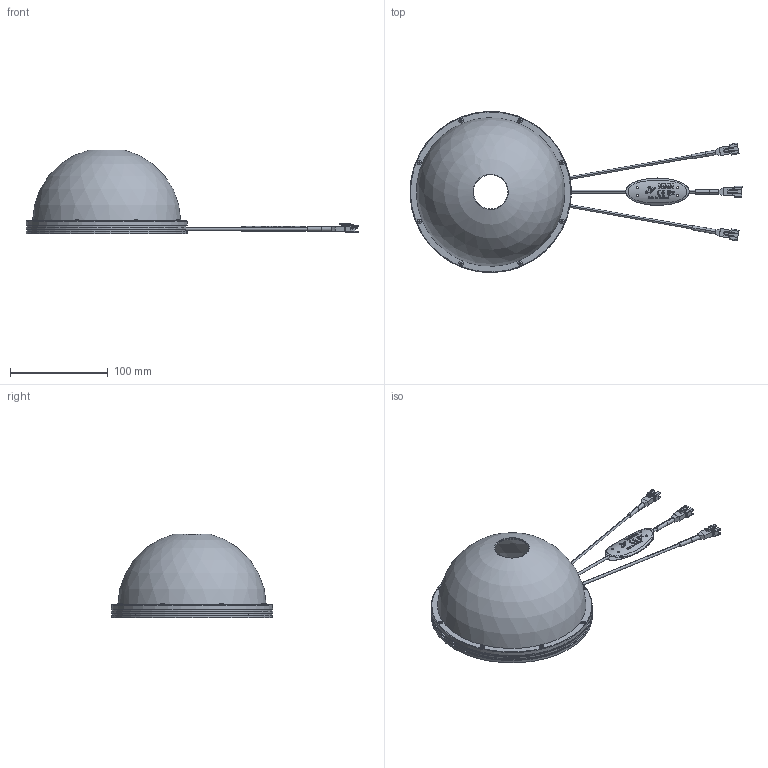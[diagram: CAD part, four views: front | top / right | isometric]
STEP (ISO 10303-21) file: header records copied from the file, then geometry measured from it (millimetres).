
FILE_DESCRIPTION( ('This file contains a STEP AP42 implementation' ,'as created by ZW3D STEP Interface translator.') ,'2;1' );
FILE_NAME( 'VDO-165RGB_DRAWING_3D.stp' ,'25 911.145820', (''), ('ZWCAD Software Co.'), 'Version 1.0', 'ZW3D to STEP translator', '' );
FILE_SCHEMA(('AUTOMOTIVE_DESIGN { 1 0 10303 214 1 1 1 1 }'));
Length unit declared in the file: millimetre
Products named in the file (1): 0
Bounding box: 339.75 x 165 x 85.84 mm (x, y, z)
Volume: 154423.4 mm3; surface area: 126628.1 mm2
Topology: 5 solids, 21 shells, 945 faces, 2700 edges, 1875 vertices
Faces by surface type: plane 552, cylinder 323, cone 26, sphere 18, bspline 14, torus 12
Full cylindrical faces by diameter (mm): 1.6 x32, 2 x8, 2.5 x8, 3.5 x8, 35 x1, 115 x1, 116.5 x1, 121.5 x1, 123 x1, 148.5 x1, 153 x1, 163 x1, 165 x2
Entity records: 33803 total; most frequent: CARTESIAN_POINT 8226, ORIENTED_EDGE 5352, DIRECTION 4764, EDGE_CURVE 2676, VERTEX_POINT 1875, VECTOR 1632, LINE 1632, AXIS2_PLACEMENT_3D 1566
